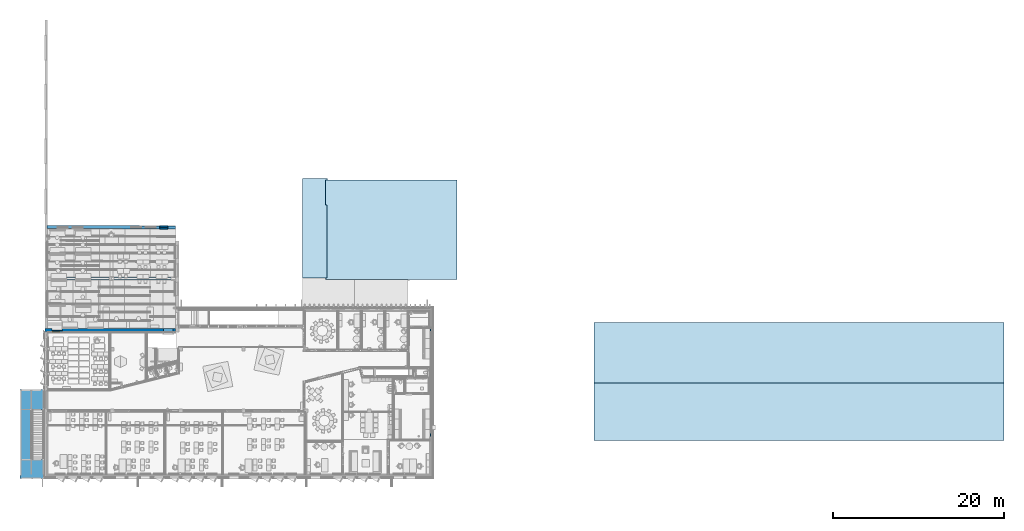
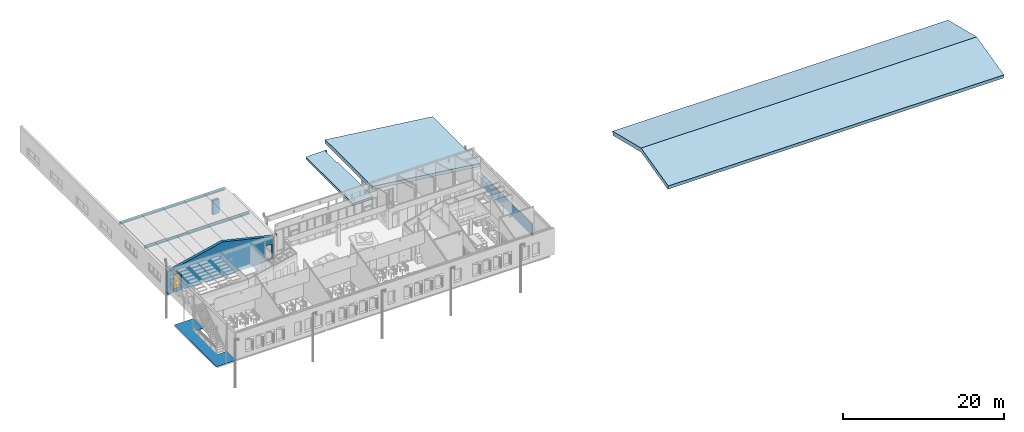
# One storey, part 44 of 153: 8 walls, 3 roofs, 1 door, 1 stair, 3 openings.
"""IFC2X3 building model written with IfcOpenShell, lengths in millimetres."""

from ifc_helpers import new_model, entity, si_unit, converted_unit, derived_unit, money_unit, direction, frame, origin_with_axes, place, context, subcontext, project, spatial, faceted_brep, material, type_object, element, fill, save


model = new_model("IFC2X3")

# Units and contexts
model_context = context("Model", 3, precision=0.01, world=origin_with_axes(), true_north=direction((0.0, 1.0)))
body_context = subcontext(model_context, "Body", "Model", "MODEL_VIEW")
ifc_project = project(units=[si_unit("LENGTHUNIT", "METRE", prefix="MILLI"), si_unit("AREAUNIT", "SQUARE_METRE"), si_unit("VOLUMEUNIT", "CUBIC_METRE"), converted_unit("PLANEANGLEUNIT", "DEGREE", entity("IfcPlaneAngleMeasure", 0.0174532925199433), si_unit("PLANEANGLEUNIT", "RADIAN"), dimensions=[0, 0, 0, 0, 0, 0, 0]), money_unit("EUR"), converted_unit("TIMEUNIT", "Year", entity("IfcTimeMeasure", 31557600.0), si_unit("TIMEUNIT", "SECOND"), dimensions=[0, 0, 1, 0, 0, 0, 0]), si_unit("MASSUNIT", "GRAM", prefix="KILO"), si_unit("THERMODYNAMICTEMPERATUREUNIT", "DEGREE_CELSIUS"), si_unit("LUMINOUSINTENSITYUNIT", "LUMEN"), si_unit("ENERGYUNIT", "JOULE", prefix="MEGA"), derived_unit("THERMALCONDUCTANCEUNIT", [(si_unit("POWERUNIT", "WATT"), 1), (si_unit("LENGTHUNIT", "METRE"), -1), (si_unit("THERMODYNAMICTEMPERATUREUNIT", "KELVIN"), -1)]), derived_unit("SPECIFICHEATCAPACITYUNIT", [(si_unit("ENERGYUNIT", "JOULE"), 1), (si_unit("MASSUNIT", "GRAM", prefix="KILO"), -1), (si_unit("THERMODYNAMICTEMPERATUREUNIT", "KELVIN"), -1)]), derived_unit("MASSDENSITYUNIT", [(si_unit("MASSUNIT", "GRAM", prefix="KILO"), 1), (si_unit("VOLUMEUNIT", "CUBIC_METRE"), -1)])], contexts=[model_context])

# Site, building, storey
site_placement = place(None, frame((0.0, 0.0, 8650.0), z_axis=(0.0, 0.0, 1.0), x_axis=(1.0, 0.0, 0.0)))
site = spatial("IfcSite", under=ifc_project, at=site_placement, Name="43301:001:0844", CompositionType="ELEMENT")
building_placement = place(site_placement, origin_with_axes())
building = spatial("IfcBuilding", under=site, at=building_placement, Name="Kuressaare Ametikooli tuulikute mehaanikute õppekorpus", CompositionType="ELEMENT")
storey_placement = place(building_placement, frame((0.0, 0.0, 4100.0), z_axis=(0.0, 0.0, 1.0), x_axis=(1.0, 0.0, 0.0)))
storey = spatial("IfcBuildingStorey", under=building, at=storey_placement, Name="2.korrus", CompositionType="ELEMENT", Elevation=4100.0)

# Walls
ifc_material_1 = material(Name="Betoonplokk")
wall_type_1 = type_object("IfcWallType", Name="SS-1.1 190", PredefinedType="NOTDEFINED")
wall_1_placement = place(storey_placement, frame((101435.6686891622, 38245.77158954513, -539.9999999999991), z_axis=(0.0, 0.0, 1.0), x_axis=(1.0, 0.0, 0.0)))
element("IfcWall", 1, at=wall_1_placement, inside=storey, type_object=wall_type_1, material=ifc_material_1, Name="Sisesein", context=body_context, shape_type="Brep", body=[
    faceted_brep([(0.0, 0.0, 0.0), (900.0000659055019, 0.0, 0.0), (900.0000659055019, -189.9999999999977, 0.0), (0.0, -189.9999999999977, 0.0), (0.0, 0.0, 2100.0), (900.0000659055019, 0.0, 2100.0), (900.0000659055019, -189.9999999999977, 2100.0), (0.0, -189.9999999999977, 2100.0)], [[[0, 1, 2, 3]], [[4, 5, 1, 0]], [[2, 1, 5, 6]], [[3, 2, 6, 7]], [[4, 0, 3, 7]], [[7, 6, 5, 4]]]),
])
wall_2_placement = place(storey_placement, frame((101435.6686891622, 37845.7716087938, -539.9999999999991), z_axis=(0.0, 0.0, 1.0), x_axis=(1.0, 0.0, 0.0)))
element("IfcWall", 2, at=wall_2_placement, inside=storey, type_object=wall_type_1, material=ifc_material_1, Name="Sisesein", context=body_context, shape_type="Brep", body=[
    faceted_brep([(0.0, 189.9999999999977, 2100.0), (0.0, 0.0, 2100.0), (900.0000659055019, 0.0, 2100.0), (900.0000659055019, 189.9999999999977, 2100.0), (0.0, 189.9999999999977, 0.0), (0.0, 0.0, 0.0), (900.0000659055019, 0.0, 0.0), (900.0000659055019, 189.9999999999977, 0.0)], [[[0, 1, 2, 3]], [[4, 5, 1, 0]], [[1, 5, 6, 2]], [[7, 3, 2, 6]], [[4, 0, 3, 7]], [[5, 4, 7, 6]]]),
])

# Wall, opening, door
wall_3_placement = place(storey_placement, frame((89991.82693481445, 25783.06892395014, -539.9999999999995), z_axis=(0.0, 0.0, 1.0), x_axis=(-1.0, 0.0, 0.0)))
wall_3 = element("IfcWall", 3, at=wall_3_placement, inside=storey, type_object=wall_type_1, material=ifc_material_1, Name="Sisesein", context=body_context, shape_type="Brep", body=[
    faceted_brep([(1175.000000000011, -190.0000000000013, 539.9999999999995), (265.0000000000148, -190.0000000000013, 539.9999999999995), (265.0000000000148, -190.0000000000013, 2640.000000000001), (0.0, -190.0000000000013, 2640.000000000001), (0.0, -190.0000000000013, 0.0), (1175.000000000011, -190.0000000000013, 0.0), (1175.000000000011, 0.0, 539.9999999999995), (265.0000000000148, 0.0, 539.9999999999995), (265.0000000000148, 0.0, 2640.000000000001), (0.0, 0.0, 2640.000000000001), (0.0, 0.0, 0.0), (1175.000000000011, 0.0, 0.0)], [[[0, 1, 2, 3, 4, 5]], [[1, 0, 6, 7]], [[8, 2, 1, 7]], [[2, 8, 9, 3]], [[10, 4, 3, 9]], [[11, 5, 4, 10]], [[6, 0, 5, 11]], [[7, 6, 11, 10, 9, 8]]]),
])
opening_1_placement = place(wall_3_placement, frame((720.0000000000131, 0.0, 539.9999999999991), z_axis=(0.0, 0.0, 1.0), x_axis=(1.0, 0.0, 0.0)))
opening_1 = element("IfcOpeningElement", 4, at=opening_1_placement, cuts=wall_3, Name="TU9,dB, EI30", context=body_context, shape_type="Brep", body=[
    faceted_brep([(-454.9999999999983, -191.0000000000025, 2110.0), (-454.9999999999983, -191.0000000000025, 0.0), (454.9999999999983, -191.0000000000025, 0.0), (454.9999999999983, -191.0000000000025, 2110.0), (-454.9999999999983, 1.000000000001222, 2110.0), (-454.9999999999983, 1.000000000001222, 0.0), (454.9999999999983, 1.000000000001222, 0.0), (454.9999999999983, 1.000000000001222, 2110.0)], [[[0, 1, 2, 3]], [[4, 5, 1, 0]], [[5, 6, 2, 1]], [[6, 7, 3, 2]], [[7, 4, 0, 3]], [[6, 5, 4, 7]]]),
])
door_style = type_object("IfcDoorStyle", Name="Door 27", ConstructionType="NOTDEFINED", OperationType="SINGLE_SWING_RIGHT", ParameterTakesPrecedence=False, Sizeable=False)
door_placement = place(opening_1_placement, frame((-454.9999999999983, 0.0, 0.0), z_axis=(0.0, 0.0, 1.0), x_axis=(1.0, 0.0, 0.0)))
door = element("IfcDoor", 5, at=door_placement, inside=storey, type_object=door_style, Name="TU9,dB, EI30", OverallHeight=2110.0, OverallWidth=910.0, context=body_context, shape_type="Brep", body=[
    faceted_brep([(49.99999999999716, -39.99999999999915, 0.0), (49.99999999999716, -39.99999999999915, 2060.0), (49.99999999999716, -114.9999999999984, 2060.0), (49.99999999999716, -114.9999999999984, 0.0), (37.9999999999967, -39.99999999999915, 2060.0), (37.9999999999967, -39.99999999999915, 0.0), (37.9999999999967, 0.0, 2060.0), (0.0, 0.0, 2060.0), (0.0, -114.9999999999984, 2060.0), (0.0, -114.9999999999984, 0.0), (0.0, 0.0, 0.0), (37.9999999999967, 0.0, 0.0)], [[[0, 1, 2, 3]], [[4, 1, 0, 5]], [[4, 6, 7, 8, 2, 1]], [[3, 2, 8, 9]], [[5, 0, 3, 9, 10, 11]], [[6, 4, 5, 11]], [[6, 11, 10, 7]], [[10, 9, 8, 7]]]),
    faceted_brep([(871.9999999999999, -39.99999999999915, 2060.0), (859.9999999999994, -39.99999999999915, 2060.0), (859.9999999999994, -114.9999999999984, 2060.0), (909.9999999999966, -114.9999999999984, 2060.0), (909.9999999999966, 0.0, 2060.0), (871.9999999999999, 0.0, 2060.0), (871.9999999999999, -39.99999999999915, 0.0), (859.9999999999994, -39.99999999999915, 0.0), (859.9999999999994, -114.9999999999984, 0.0), (909.9999999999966, -114.9999999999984, 0.0), (909.9999999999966, 0.0, 0.0), (871.9999999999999, 0.0, 0.0)], [[[0, 1, 2, 3, 4, 5]], [[1, 0, 6, 7]], [[1, 7, 8, 2]], [[3, 2, 8, 9]], [[4, 3, 9, 10]], [[11, 5, 4, 10]], [[0, 5, 11, 6]], [[6, 11, 10, 9, 8, 7]]]),
    faceted_brep([(37.9999999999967, 0.0, 2072.0), (37.9999999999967, 0.0, 2060.0), (0.0, 0.0, 2060.0), (0.0, 0.0, 2110.0), (909.9999999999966, 0.0, 2110.0), (909.9999999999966, 0.0, 2060.0), (871.9999999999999, 0.0, 2060.0), (871.9999999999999, 0.0, 2072.0), (37.9999999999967, -39.99999999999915, 2072.0), (37.9999999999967, -39.99999999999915, 2060.0), (49.99999999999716, -39.99999999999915, 2060.0), (49.99999999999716, -114.9999999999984, 2060.0), (0.0, -114.9999999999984, 2060.0), (0.0, -114.9999999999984, 2110.0), (909.9999999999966, -114.9999999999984, 2110.0), (909.9999999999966, -114.9999999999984, 2060.0), (871.9999999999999, -39.99999999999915, 2060.0), (859.9999999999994, -114.9999999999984, 2060.0), (859.9999999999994, -39.99999999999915, 2060.0), (871.9999999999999, -39.99999999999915, 2072.0)], [[[0, 1, 2, 3, 4, 5, 6, 7]], [[1, 0, 8, 9]], [[9, 10, 11, 12, 2, 1]], [[2, 12, 13, 3]], [[3, 13, 14, 4]], [[4, 14, 15, 5]], [[16, 6, 5, 15, 17, 18]], [[7, 6, 16, 19]], [[0, 7, 19, 8]], [[16, 18, 10, 9, 8, 19]], [[10, 18, 17, 11]], [[17, 15, 14, 13, 12, 11]]]),
    faceted_brep([(871.9999999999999, 0.0, 0.0), (871.9999999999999, -39.99999999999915, 0.0), (37.9999999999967, -39.99999999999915, 0.0), (37.9999999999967, 0.0, 0.0), (871.9999999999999, 0.0, 2072.0), (871.9999999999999, -39.99999999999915, 2072.0), (37.9999999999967, -39.99999999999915, 2072.0), (37.9999999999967, 0.0, 2072.0)], [[[0, 1, 2, 3]], [[4, 5, 1, 0]], [[1, 5, 6, 2]], [[3, 2, 6, 7]], [[0, 3, 7, 4]], [[7, 6, 5, 4]]]),
])
fill(opening_1, door)

# Wall
ifc_material_2 = material(Name="Puit - CLT")
wall_type_2 = type_object("IfcWallType", Name="SS-3 140", PredefinedType="NOTDEFINED")
wall_4_placement = place(storey_placement, frame((133024.9464386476, 13517.65771690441, 0.0), z_axis=(0.0, 0.0, 1.0), x_axis=(2.342811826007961e-10, 1.0, 0.0)))
element("IfcWall", 6, at=wall_4_placement, inside=storey, type_object=wall_type_2, material=ifc_material_2, Name="Sisesein", context=body_context, shape_type="Brep", body=[
    faceted_brep([(3.280042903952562e-08, -139.9999999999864, 1749.999999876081), (12817.12176545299, -139.9999969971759, 1749.999999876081), (12817.12176542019, 3.002810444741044e-06, 1749.999999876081), (0.0, 0.0, 1749.999999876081), (3.280042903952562e-08, -139.9999999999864, 0.0), (12817.12176545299, -139.9999969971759, 0.0), (12817.12176542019, 3.002810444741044e-06, 0.0), (0.0, 0.0, 0.0)], [[[0, 1, 2, 3]], [[4, 5, 1, 0]], [[2, 1, 5, 6]], [[3, 2, 6, 7]], [[4, 0, 3, 7]], [[7, 6, 5, 4]]]),
])

# Wall, openings
ifc_material_3 = material(Name="GENEERILINE - KONSTRUKTRIOON")
wall_type_3 = type_object("IfcWallType", Name="GENEERILINE - KONSTRUKTRIOON 400", PredefinedType="NOTDEFINED")
wall_5_placement = place(storey_placement, frame((103647.5122070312, 25783.06892395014, -539.9999999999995), z_axis=(0.0, 0.0, 1.0), x_axis=(-1.0, 0.0, 0.0)))
wall_5 = element("IfcWall", 7, at=wall_5_placement, inside=storey, type_object=wall_type_3, material=ifc_material_3, Name="VS-XX", context=body_context, shape_type="Brep", body=[
    faceted_brep([(15688.75576019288, -400.0000000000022, 3350.00000002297), (7799.398324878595, -399.999999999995, 5193.468595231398), (420.0000000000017, -399.9999999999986, 3449.2713511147), (420.0000000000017, -400.0000000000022, 0.0), (13655.6852722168, -400.0000000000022, 0.0), (13655.6852722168, -399.9999999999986, 2640.000000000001), (14830.68527221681, -399.9999999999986, 2640.000000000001), (14830.68527221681, -400.0000000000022, 0.0), (15688.75576019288, -400.0000000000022, 0.0), (673.9409870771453, -399.9999999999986, 90.0000000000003), (673.9409870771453, -399.9999999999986, 2390.0), (1813.940987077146, -399.9999999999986, 2390.0), (1813.940987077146, -399.9999999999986, 90.0000000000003), (15688.75576017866, 0.000153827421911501, 3349.999999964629), (7799.398324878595, -0.02935926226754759, 5193.468595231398), (419.9999999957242, -0.001384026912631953, 3449.271351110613), (420.0000000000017, 0.0, 0.0), (13655.6852722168, 0.0, 0.0), (13655.6852722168, 0.0, 2640.000000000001), (14830.68527221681, 0.0, 2640.000000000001), (14830.68527221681, 0.0, 0.0), (15688.75576019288, 0.0, 0.0), (673.9409870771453, 0.0, 90.0000000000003), (673.9409870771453, 0.0, 2390.0), (1813.940987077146, 0.0, 2390.0), (1813.940987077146, 0.0, 90.0000000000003)], [[[0, 1, 2, 3, 4, 5, 6, 7, 8], [9, 10, 11, 12]], [[1, 0, 13, 14]], [[15, 2, 1, 14]], [[2, 15, 16, 3]], [[3, 16, 17, 4]], [[17, 18, 5, 4]], [[18, 19, 6, 5]], [[19, 20, 7, 6]], [[21, 8, 7, 20]], [[13, 0, 8, 21]], [[9, 22, 23, 10]], [[10, 23, 24, 11]], [[11, 24, 25, 12]], [[12, 25, 22, 9]], [[14, 13, 21, 20, 19, 18, 17, 16, 15], [24, 23, 22, 25]]]),
    faceted_brep([(34.60387874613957, -399.9999999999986, 3449.271351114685), (0.0, -399.9999999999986, 3595.674406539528), (0.0, -399.9999999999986, 3449.271351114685), (0.0, 0.0, 3595.674406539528), (34.60387874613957, -1.87057480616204e-07, 3449.271351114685), (0.0, 0.0, 3449.271351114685)], [[[0, 1, 2]], [[3, 1, 0, 4]], [[1, 3, 5, 2]], [[4, 0, 2, 5]], [[3, 4, 5]]]),
])
opening_2_placement = place(wall_5_placement, frame((14243.18527221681, 0.0, 0.0), z_axis=(0.0, 0.0, 1.0), x_axis=(1.0, 0.0, 0.0)))
element("IfcOpeningElement", 8, at=opening_2_placement, cuts=wall_5, Name="ava", context=body_context, shape_type="Brep", body=[
    faceted_brep([(-587.5000000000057, 0.0, 0.0), (-587.5000000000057, 0.0, 2640.000000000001), (-587.5000000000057, 1.000000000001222, 2640.000000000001), (-587.5000000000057, 1.000000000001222, 0.0), (-587.5000000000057, -400.9999999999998, 0.0), (-587.5000000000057, -400.9999999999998, 2640.000000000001), (587.5000000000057, 0.0, 2640.000000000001), (587.5000000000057, 1.000000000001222, 2640.000000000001), (587.5000000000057, 1.000000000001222, 0.0), (587.5000000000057, 0.0, 0.0), (587.5000000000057, -400.9999999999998, 0.0), (587.5000000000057, -400.9999999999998, 2640.000000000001)], [[[0, 1, 2, 3]], [[1, 0, 4, 5]], [[1, 6, 7, 2]], [[8, 3, 2, 7]], [[9, 0, 3, 8]], [[0, 9, 10, 4]], [[5, 4, 10, 11]], [[6, 1, 5, 11]], [[6, 9, 8, 7]], [[9, 6, 11, 10]]]),
])
opening_3_placement = place(wall_5_placement, frame((1243.940987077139, 0.0, 89.99999999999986), z_axis=(0.0, 0.0, 1.0), x_axis=(1.0, 0.0, 0.0)))
element("IfcOpeningElement", 9, at=opening_3_placement, cuts=wall_5, Name="ava", context=body_context, shape_type="Brep", body=[
    faceted_brep([(570.0000000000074, -399.9999999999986, 2300.0), (-569.9999999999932, -399.9999999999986, 2300.0), (-569.9999999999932, -400.9999999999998, 2300.0), (570.0000000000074, -400.9999999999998, 2300.0), (570.0000000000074, 1.000000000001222, 2300.0), (-569.9999999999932, 1.000000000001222, 2300.0), (-569.9999999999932, -399.9999999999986, 0.0), (-569.9999999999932, -400.9999999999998, 0.0), (570.0000000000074, -400.9999999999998, 0.0), (570.0000000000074, -399.9999999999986, 0.0), (570.0000000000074, 1.000000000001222, 0.0), (-569.9999999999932, 1.000000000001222, 0.0)], [[[0, 1, 2, 3]], [[1, 0, 4, 5]], [[1, 6, 7, 2]], [[7, 8, 3, 2]], [[9, 0, 3, 8]], [[0, 9, 10, 4]], [[4, 10, 11, 5]], [[6, 1, 5, 11]], [[6, 9, 8, 7]], [[9, 6, 11, 10]]]),
])

# Walls
wall_type_4 = type_object("IfcWallType", Name="Precast Single Tee 3 356 x 275", PredefinedType="NOTDEFINED")
wall_6_placement = place(storey_placement, frame((95762.878020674, 32051.0340460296, 2805.176440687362), z_axis=(0.0, 0.0, 1.0), x_axis=(-0.001658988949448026, -0.999998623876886, 0.0)))
element("IfcWall", 10, at=wall_6_placement, inside=storey, type_object=wall_type_4, material=ifc_material_3, context=body_context, shape_type="Brep", body=[
    faceted_brep([(109.5797971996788, 0.0, -97.60896852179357), (109.5797971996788, 7464.644458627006, -97.60896852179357), (135.1717868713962, 7464.644458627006, -52.54830876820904), (135.1717868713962, 0.0, -52.54830876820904), (109.5792594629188, 0.0, -275.17670986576), (109.5792594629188, 7464.644458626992, -275.17670986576), (-109.5792594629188, 7464.644458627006, -275.17670986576), (-109.5797971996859, 7464.644458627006, -97.60896852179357), (-135.1717868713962, 7464.644458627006, -52.54830876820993), (-166.844263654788, 7464.644458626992, -11.53285793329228), (-177.8068114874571, 7464.644458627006, 0.0), (177.8068114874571, 7464.644458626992, 0.0), (166.8442636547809, 7464.644458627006, -11.5328579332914), (166.8442636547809, 0.0, -11.5328579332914), (177.8068114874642, 0.0, 0.0), (-177.8068114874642, 0.0, 0.0), (-166.844263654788, 0.0, -11.53285793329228), (-135.1717868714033, 0.0, -52.54830876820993), (-109.5797971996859, 0.0, -97.60896852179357), (-109.5792594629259, 0.0, -275.17670986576)], [[[0, 1, 2, 3]], [[4, 5, 1, 0]], [[2, 1, 5, 6, 7, 8, 9, 10, 11, 12]], [[3, 2, 12, 13]], [[4, 0, 3, 13, 14, 15, 16, 17, 18, 19]], [[19, 6, 5, 4]], [[18, 7, 6, 19]], [[17, 8, 7, 18]], [[16, 9, 8, 17]], [[15, 10, 9, 16]], [[14, 11, 10, 15]], [[13, 12, 11, 14]]]),
])
wall_7_placement = place(storey_placement, frame((88207.95330283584, 38072.68911338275, 2830.090151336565), z_axis=(0.0, 0.0, 1.0), x_axis=(-0.00218120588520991, -0.9999976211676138, 0.0)))
element("IfcWall", 11, at=wall_7_placement, inside=storey, type_object=wall_type_4, material=ifc_material_3, context=body_context, shape_type="Brep", body=[
    faceted_brep([(109.5797971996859, 0.0, -97.60896852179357), (109.5797971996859, 15019.59463329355, -97.60896852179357), (135.1717868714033, 15019.59463329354, -52.54830876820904), (135.1717868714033, 0.0, -52.54830876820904), (109.5792594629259, 0.0, -275.17670986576), (109.5792594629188, 15019.59463329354, -275.17670986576), (-109.5792594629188, 15019.59463329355, -275.17670986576), (-109.5797971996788, 15019.59463329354, -97.60896852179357), (-135.1717868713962, 15019.59463329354, -52.54830876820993), (-166.844263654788, 15019.59463329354, -11.53285793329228), (-177.8068114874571, 15019.59463329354, 0.0), (177.8068114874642, 15019.59463329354, 0.0), (166.8442636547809, 15019.59463329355, -11.5328579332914), (166.8442636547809, 0.0, -11.5328579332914), (177.8068114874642, 0.0, 0.0), (-177.8068114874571, 0.0, 0.0), (-166.844263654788, 0.0, -11.53285793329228), (-135.1717868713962, 0.0, -52.54830876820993), (-109.5797971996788, 0.0, -97.60896852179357), (-109.5792594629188, 0.0, -275.17670986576)], [[[0, 1, 2, 3]], [[4, 5, 1, 0]], [[2, 1, 5, 6, 7, 8, 9, 10, 11, 12]], [[3, 2, 12, 13]], [[4, 0, 3, 13, 14, 15, 16, 17, 18, 19]], [[19, 6, 5, 4]], [[18, 7, 6, 19]], [[17, 8, 7, 18]], [[16, 9, 8, 17]], [[15, 10, 9, 16]], [[14, 11, 10, 15]], [[13, 12, 11, 14]]]),
])
wall_type_5 = type_object("IfcWallType", Name="Precast Single Tee 3 356 x 265", PredefinedType="NOTDEFINED")
wall_8_placement = place(storey_placement, frame((88258.75644683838, 32024.00169395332, 2805.165256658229), z_axis=(0.0, 0.0, 1.0), x_axis=(0.003602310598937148, -0.9999935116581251, 0.0)))
element("IfcWall", 12, at=wall_8_placement, inside=storey, type_object=wall_type_5, material=ifc_material_3, context=body_context, shape_type="Brep", body=[
    faceted_brep([(109.5797981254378, 0.0, -88.60234040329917), (109.5797981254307, 7504.170263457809, -88.60234040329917), (128.8012531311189, 7504.170263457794, -56.45028401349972), (128.8012531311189, 0.0, -56.45028401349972), (109.5792594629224, 0.0, -265.1652566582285), (109.5792594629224, 7504.170263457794, -265.1652566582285), (-109.5792594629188, 7504.170263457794, -265.1652566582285), (-109.5797981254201, 7504.170263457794, -88.60234040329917), (-128.8012531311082, 7504.170263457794, -56.45028401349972), (-151.6670454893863, 7504.170263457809, -26.77917681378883), (-177.8604559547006, 7504.170263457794, 0.0), (177.8604559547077, 7504.170263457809, 0.0), (151.6670454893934, 7504.170263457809, -26.77917681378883), (151.6670454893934, 0.0, -26.77917681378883), (177.8604559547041, 0.0, 0.0), (-177.8604559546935, 0.0, 0.0), (-151.6670454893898, 0.0, -26.77917681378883), (-128.8012531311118, 0.0, -56.45028401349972), (-109.5797981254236, 0.0, -88.60234040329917), (-109.5792594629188, 0.0, -265.1652566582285)], [[[0, 1, 2, 3]], [[4, 5, 1, 0]], [[2, 1, 5, 6, 7, 8, 9, 10, 11, 12]], [[3, 2, 12, 13]], [[4, 0, 3, 13, 14, 15, 16, 17, 18, 19]], [[19, 6, 5, 4]], [[18, 7, 6, 19]], [[17, 8, 7, 18]], [[16, 9, 8, 17]], [[15, 10, 9, 16]], [[14, 11, 10, 15]], [[13, 12, 11, 14]]]),
])

# Stair
stair_placement = place(storey_placement, frame((85046.22662386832, 19063.83737729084, -19.99999999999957), z_axis=(0.0, 0.0, 1.0), x_axis=(1.0, 0.0, 0.0)))
element("IfcStair", 13, at=stair_placement, inside=storey, material=ifc_material_3, Name="Trepimade", ShapeType="NOTDEFINED", context=body_context, shape_type="Brep", body=[
    faceted_brep([(0.0, 0.0, 0.0), (0.0, 0.0, -40.00000000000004), (0.0, -10439.99883860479, -40.00000000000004), (0.0, -10439.99883860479, 0.0), (2810.001445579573, 0.0, 0.0), (2810.001445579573, 0.0, -40.00000000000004), (2810.001445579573, -2424.999307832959, -40.00000000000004), (1410.000021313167, -2424.999307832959, -40.00000000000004), (1410.000021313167, -8164.999307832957, -40.00000000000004), (2810.000002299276, -8164.999307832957, -40.00000000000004), (2810.000002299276, -10439.99883860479, -40.00000000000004), (2810.000002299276, -10439.99883860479, 0.0), (2810.000002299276, -8164.999307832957, 0.0), (1410.000021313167, -8164.999307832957, 0.0), (1410.000021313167, -2424.999307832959, 0.0), (2810.001445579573, -2424.999307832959, 0.0)], [[[0, 1, 2, 3]], [[4, 5, 1, 0]], [[2, 1, 5, 6, 7, 8, 9, 10]], [[3, 2, 10, 11]], [[4, 0, 3, 11, 12, 13, 14, 15]], [[15, 6, 5, 4]], [[14, 7, 6, 15]], [[13, 8, 7, 14]], [[12, 9, 8, 13]], [[11, 10, 9, 12]]]),
])

# Roofs
roof_1_placement = place(storey_placement, frame((136190.3564609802, 31928.82728576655, -1799.999999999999), z_axis=(0.0, 0.0, 1.0), x_axis=(7.830168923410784e-09, 1.0, 0.0)))
element("IfcRoof", 14, at=roof_1_placement, inside=storey, material=ifc_material_3, ShapeType="NOTDEFINED", context=body_context, shape_type="Brep", body=[
    faceted_brep([(11667.96710158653, 0.0, 494.9999999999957), (11667.96710158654, 59.87566916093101, 7.351807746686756), (11666.7200072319, 15456.04501316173, 1897.763700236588), (11666.7200072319, 15396.16934400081, 2385.411892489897), (0.0, -9.136215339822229e-05, 494.9999887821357), (0.0, 59.87557779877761, 7.351796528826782), (-0.0001205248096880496, 15452.23965681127, 1897.296461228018), (-0.0001205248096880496, 15392.36398765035, 2384.944653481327)], [[[0, 1, 2, 3]], [[4, 5, 1, 0]], [[2, 1, 5, 6]], [[3, 2, 6, 7]], [[4, 0, 3, 7]], [[7, 6, 5, 4]]]),
])
roof_2_placement = place(storey_placement, frame((118113.1896972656, 43735.66436767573, -1520.0), z_axis=(0.0, 0.0, 1.0), x_axis=(0.0, -1.0, 0.0)))
element("IfcRoof", 15, at=roof_2_placement, inside=storey, material=ifc_material_3, ShapeType="NOTDEFINED", context=body_context, shape_type="Brep", body=[
    faceted_brep([(-0.6308660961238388, 2918.752908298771, 395.894618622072), (-0.6308660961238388, 2924.250469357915, 45.93779725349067), (-0.6308660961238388, 5.497561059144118, 0.08636259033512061), (-0.6308660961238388, 0.0, 350.0431839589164), (146.3393918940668, 2918.752908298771, 395.894618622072), (146.3393918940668, 2924.250469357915, 45.93779725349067), (146.9993639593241, 2686.497207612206, 42.20287056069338), (3055.99776039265, 2689.4965346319, 42.24998775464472), (3055.932617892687, 2869.497274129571, 45.07766532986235), (11626.83713720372, 2869.497274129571, 45.07766532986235), (11626.83713720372, 5.497561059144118, 0.08636259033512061), (11626.83713720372, 0.0, 350.0431839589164), (11626.83713720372, 2863.999713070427, 395.0344866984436), (3055.932617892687, 2863.999713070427, 395.0344866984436), (3055.99776039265, 2683.998973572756, 392.206809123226), (146.9993639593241, 2680.999646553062, 392.1596919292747)], [[[0, 1, 2, 3]], [[4, 5, 1, 0]], [[2, 1, 5, 6, 7, 8, 9, 10]], [[3, 2, 10, 11]], [[4, 0, 3, 11, 12, 13, 14, 15]], [[15, 6, 5, 4]], [[14, 7, 6, 15]], [[13, 8, 7, 14]], [[12, 9, 8, 13]], [[11, 10, 9, 12]]]),
])
roof_3_placement = place(storey_placement, frame((176258.6203004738, 19981.51504741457, 570.0000000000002), z_axis=(0.0, 0.0, 1.0), x_axis=(1.0, 0.0, 0.0)))
element("IfcRoof", 16, at=roof_3_placement, inside=storey, material=ifc_material_3, ShapeType="NOTDEFINED", context=body_context, shape_type="Brep", body=[
    faceted_brep([(-24005.00000018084, 6912.212533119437, 419.3325065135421), (-24005.00000002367, -154.7633400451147, 2151.406452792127), (24004.99999977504, -154.7633402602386, 2151.406452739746), (24005.0000001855, 6912.212532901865, 419.3325065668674), (-24005.00000054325, 6769.92698278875, -161.2019174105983), (-24005.00000002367, -155.2279671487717, 1536.112560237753), (24005.0000001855, -6912.21253311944, 506.0102327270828), (-24005.00000018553, -6912.212533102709, 506.0102327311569), (24004.99999975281, -155.2279671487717, 1536.112560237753), (24005.00000016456, 6769.92698278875, -161.2019174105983), (-24005.00000002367, -6770.803903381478, -74.73841740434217), (24004.99999975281, -6770.803903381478, -74.73841740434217)], [[[0, 1, 2, 3]], [[4, 5, 1, 0]], [[6, 2, 1, 7]], [[3, 2, 8, 9]], [[9, 4, 0, 3]], [[9, 8, 5, 4]], [[7, 1, 5, 10]], [[11, 8, 2, 6]], [[10, 11, 6, 7]], [[10, 5, 8, 11]]]),
])

save(model, "model.ifc")
